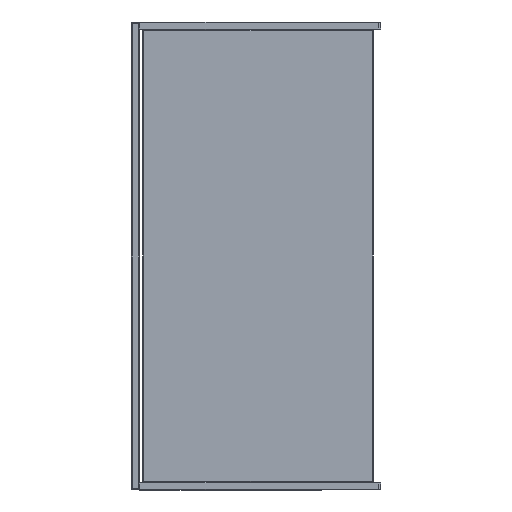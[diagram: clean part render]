
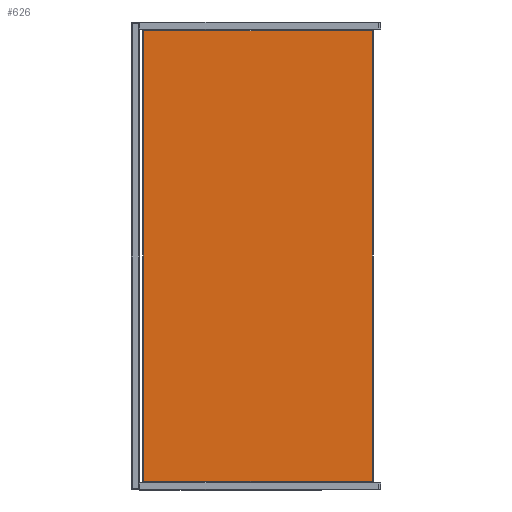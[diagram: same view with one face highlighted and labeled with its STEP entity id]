
A CAD part, front view. The second image highlights one B-rep face of the part: STEP entity #626.
In plain terms, the highlighted planar face has unit normal (0, -1, 0).
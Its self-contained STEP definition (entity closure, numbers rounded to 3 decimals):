
#393=CARTESIAN_POINT('',(6.,80.0,-579.));
#394=VERTEX_POINT('',#393);
#401=CARTESIAN_POINT('',(6.,80.0,-1.));
#402=VERTEX_POINT('',#401);
#403=CARTESIAN_POINT('',(6.,80.0,-579.0));
#404=DIRECTION('',(0.0,0.0,1.0));
#405=VECTOR('',#404,578.0);
#406=LINE('',#403,#405);
#407=EDGE_CURVE('',#394,#402,#406,.T.);
#430=CARTESIAN_POINT('',(299.,80.,-1.));
#431=VERTEX_POINT('',#430);
#432=CARTESIAN_POINT('',(6.,80.0,-1.));
#433=DIRECTION('',(1.0,0.0,0.0));
#434=VECTOR('',#433,293.);
#435=LINE('',#432,#434);
#436=EDGE_CURVE('',#402,#431,#435,.T.);
#475=CARTESIAN_POINT('',(299.,80.,-579.));
#476=VERTEX_POINT('',#475);
#477=CARTESIAN_POINT('',(299.,80.,-1.));
#478=DIRECTION('',(0.0,0.0,-1.0));
#479=VECTOR('',#478,578.);
#480=LINE('',#477,#479);
#481=EDGE_CURVE('',#431,#476,#480,.T.);
#524=CARTESIAN_POINT('',(299.,80.,-579.));
#525=DIRECTION('',(-1.0,0.0,0.0));
#526=VECTOR('',#525,293.0);
#527=LINE('',#524,#526);
#528=EDGE_CURVE('',#476,#394,#527,.T.);
#615=CARTESIAN_POINT('',(152.5,80.,-290.));
#616=DIRECTION('',(0.0,-1.0,0.0));
#617=DIRECTION('',(0.0,0.0,-1.0));
#618=AXIS2_PLACEMENT_3D('',#615,#616,#617);
#619=PLANE('',#618);
#620=ORIENTED_EDGE('',*,*,#407,.F.);
#621=ORIENTED_EDGE('',*,*,#528,.F.);
#622=ORIENTED_EDGE('',*,*,#481,.F.);
#623=ORIENTED_EDGE('',*,*,#436,.F.);
#624=EDGE_LOOP('',(#620,#621,#622,#623));
#625=FACE_OUTER_BOUND('',#624,.T.);
#626=ADVANCED_FACE('',(#625),#619,.T.);
